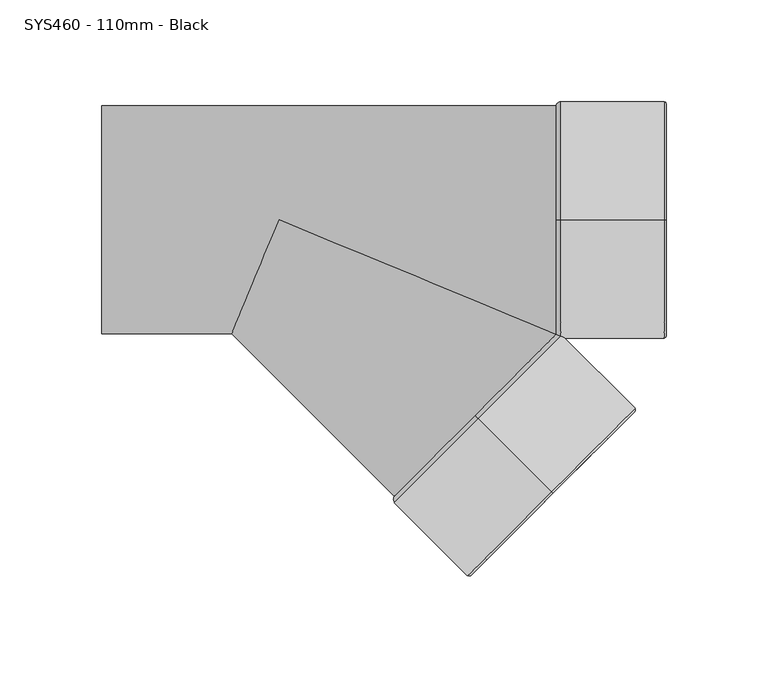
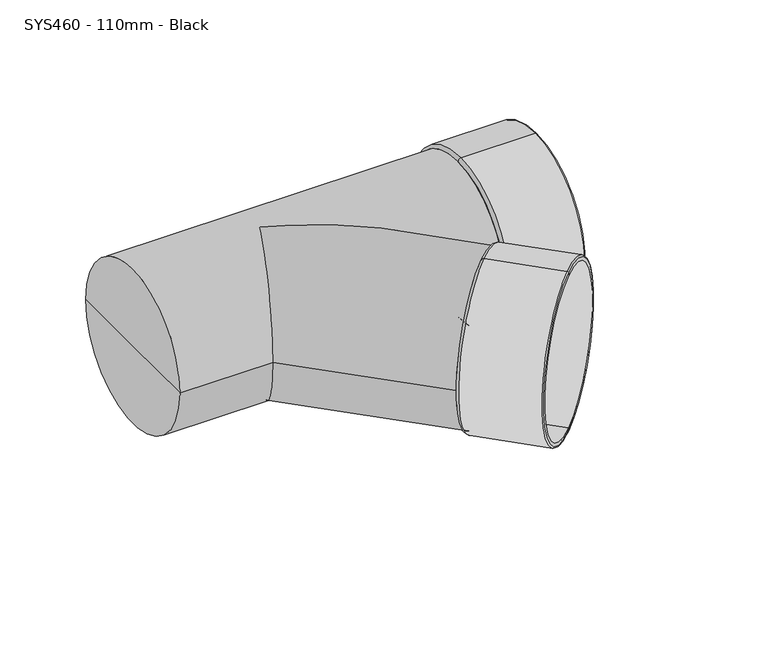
"""IFC4 building model written with IfcOpenShell, lengths in millimetres: pipe fitting geometry, MarleyPlumbingAndDrainage_PipeFitting_EqualBranch45 : SYS460 - 110mm - Black."""

from ifc_helpers import new_model, si_unit, point, frame, origin, place, context, project, spatial, polyline, circle_curve, ellipse_curve, trimmed, source, transform, mapped, element, save
from ifc_brep_helpers import plane_surface, cylinder_surface, revolved_surface, advanced_brep


def sys460_110mm_black_a823f374(model_context):
    return source(origin(), model_context, "Body", "AdvancedBrep", [
        advanced_brep(
        [(119.5249066, -134.3502884, -55.2), (119.5249066, -134.3502884, 55.2), (119.5249066, -134.3502884, 57.1626013), (119.5249066, -134.3502884, -57.1626013), (82.8967753, -97.7221572, -55.2), (82.8967753, -97.7221572, 55.2), (82.8967753, -97.7221572, 0.0), (81.3411404, -96.1665222, -56.0), (81.3411404, -96.1665222, 56.0), (81.3411404, -96.1665222, 0.0), (118.791355, -133.6167368, -58.2), (118.791355, -133.6167368, 58.2), (82.8967753, -97.7221572, 58.2), (82.8967753, -97.7221572, -58.2)],
        [
            (0, 1, circle_curve(frame((119.5249066, -134.3502884, 0.0), z_axis=(-0.7071067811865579, 0.7071067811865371, 0.0), x_axis=(0.0, 0.0, 1.0)), 55.2)),
            (1, 2),
            (2, 3, circle_curve(frame((119.5249066, -134.3502884, 0.0), z_axis=(0.7071067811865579, -0.7071067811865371, 0.0), x_axis=(0.0, 0.0, 1.0)), 57.1626013)),
            (3, 0),
            (1, 0, circle_curve(frame((119.5249066, -134.3502884, 0.0), z_axis=(-0.7071067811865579, 0.7071067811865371, 0.0), x_axis=(0.0, 0.0, 1.0)), 55.2)),
            (3, 2, circle_curve(frame((119.5249066, -134.3502884, 0.0), z_axis=(0.7071067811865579, -0.7071067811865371, 0.0), x_axis=(0.0, 0.0, 1.0)), 57.1626013)),
            (4, 5, circle_curve(frame((82.8967753, -97.7221572, 0.0), z_axis=(-0.7071067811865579, 0.7071067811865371, 0.0), x_axis=(0.0, 0.0, 1.0)), 55.2)),
            (5, 1),
            (0, 4),
            (5, 4, circle_curve(frame((82.8967753, -97.7221572, 0.0), z_axis=(-0.7071067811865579, 0.7071067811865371, 0.0), x_axis=(0.0, 0.0, 1.0)), 55.2)),
            (6, 5),
            (4, 6),
            (7, 8, circle_curve(frame((81.3411404, -96.1665222, 0.0), z_axis=(-0.7071067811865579, 0.7071067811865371, 0.0), x_axis=(0.0, 0.0, 1.0)), 56.0)),
            (8, 9),
            (9, 7),
            (8, 7, circle_curve(frame((81.3411404, -96.1665222, 0.0), z_axis=(-0.7071067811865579, 0.7071067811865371, 0.0), x_axis=(0.0, 0.0, 1.0)), 56.0)),
            (10, 11, circle_curve(frame((118.791355, -133.6167368, 0.0), z_axis=(-0.7071067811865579, 0.7071067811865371, 0.0), x_axis=(0.0, 0.0, 1.0)), 58.2)),
            (11, 12),
            (12, 13, circle_curve(frame((82.8967753, -97.7221572, 0.0), z_axis=(0.7071067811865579, -0.7071067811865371, 0.0), x_axis=(0.0, 0.0, 1.0)), 58.2)),
            (13, 10),
            (11, 10, circle_curve(frame((118.791355, -133.6167368, 0.0), z_axis=(-0.7071067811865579, 0.7071067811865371, 0.0), x_axis=(0.0, 0.0, 1.0)), 58.2)),
            (13, 12, circle_curve(frame((82.8967753, -97.7221572, 0.0), z_axis=(0.7071067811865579, -0.7071067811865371, 0.0), x_axis=(0.0, 0.0, 1.0)), 58.2)),
            (2, 11, circle_curve(frame((118.791355, -133.6167368, 57.1626013), z_axis=(-0.7071067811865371, -0.7071067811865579, 0.0), x_axis=(0.0, 0.0, 1.0)), 1.0373987)),
            (10, 3, circle_curve(frame((118.791355, -133.6167368, -57.1626013), z_axis=(-0.7071067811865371, -0.7071067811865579, 0.0), x_axis=(0.0, 0.0, -1.0)), 1.0373987)),
            (12, 8, circle_curve(frame((82.8967753, -97.7221572, 56.0), z_axis=(-0.7071067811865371, -0.7071067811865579, 0.0), x_axis=(0.0, 0.0, 1.0)), 2.2)),
            (7, 13, circle_curve(frame((82.8967753, -97.7221572, -56.0), z_axis=(-0.7071067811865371, -0.7071067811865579, 0.0), x_axis=(0.0, 0.0, -1.0)), 2.2)),
        ],
        [
            plane_surface(frame((119.5249066, -134.3502884, 0.0), z_axis=(0.7071067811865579, -0.7071067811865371, 0.0), x_axis=(0.0, 0.0, 1.0))),
            revolved_surface(polyline([(119.52490659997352, -134.3502884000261, 55.2), (82.89677534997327, -97.72215715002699, 55.2)]), (1916.2925792, -1931.117961, 0.0), (0.7071067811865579, -0.7071067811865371, 0.0)),
            plane_surface(frame((82.8967753, -97.7221572, 0.0), z_axis=(0.7071067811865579, -0.7071067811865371, 0.0), x_axis=(0.0, 0.0, 1.0))),
            plane_surface(frame((81.3411404, -96.1665222, 0.0), z_axis=(-0.7071067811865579, 0.7071067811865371, 0.0), x_axis=(0.0, 0.0, 1.0))),
            cylinder_surface(frame((1916.2925792, -1931.117961, 0.0), z_axis=(0.7071067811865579, -0.7071067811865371, 0.0), x_axis=(0.0, 0.0, 1.0)), 58.2),
            revolved_surface(trimmed(ellipse_curve(frame((118.791355, -133.6167368, 57.1626013), z_axis=(0.7071067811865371, 0.7071067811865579, 0.0), x_axis=(0.0, 0.0, 1.0)), 1.0373987, 1.0373987), [point((118.791355, -133.6167368, 58.2))], [point((119.5249066, -134.3502884, 57.1626013))], True, "CARTESIAN"), (1916.2925792, -1931.117961, 0.0), (0.7071067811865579, -0.7071067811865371, 0.0)),
            revolved_surface(trimmed(ellipse_curve(frame((82.8967753, -97.7221572, 56.0), z_axis=(0.7071067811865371, 0.7071067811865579, 0.0), x_axis=(0.0, 0.0, 1.0)), 2.2, 2.2), [point((81.3411404, -96.1665222, 56.0))], [point((82.8967753, -97.7221572, 58.2))], True, "CARTESIAN"), (1916.2925792, -1931.117961, 0.0), (0.7071067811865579, -0.7071067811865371, 0.0)),
        ],
        [
            (0, [[1, 2, 3, 4]]),
            (0, [[5, -4, 6, -2]]),
            (1, [[7, 8, -1, 9]]),
            (1, [[10, -9, -5, -8]]),
            (2, [[11, -7, 12]]),
            (2, [[-12, -10, -11]]),
            (3, [[13, 14, 15]]),
            (3, [[16, -15, -14]]),
            (4, [[17, 18, 19, 20]]),
            (4, [[21, -20, 22, -18]]),
            (5, [[-3, 23, -17, 24]]),
            (5, [[-6, -24, -21, -23]]),
            (6, [[-19, 25, -13, 26]]),
            (6, [[-22, -26, -16, -25]]),
        ],
    ),
        advanced_brep(
        [(175.1746182, 0.0, 55.2), (175.1746182, 0.0, -55.2), (175.1746182, 0.0, -57.1626013), (175.1746182, 0.0, 57.1626013), (123.3746182, 0.0, 55.2), (123.3746182, 0.0, -55.2), (123.3746182, 0.0, 0.0), (121.1746182, 0.0, 56.0), (121.1746182, 0.0, -56.0), (121.1746182, 0.0, 0.0), (174.1372195, 0.0, 58.2), (174.1372195, 0.0, -58.2), (123.3746182, 0.0, -58.2), (123.3746182, 0.0, 58.2)],
        [
            (0, 1, circle_curve(frame((175.1746182, 0.0, 0.0), z_axis=(-1.0, 0.0, 0.0), x_axis=(0.0, 0.0, -1.0)), 55.2)),
            (1, 2),
            (2, 3, circle_curve(frame((175.1746182, 0.0, 0.0), z_axis=(1.0, 0.0, 0.0), x_axis=(0.0, 0.0, -1.0)), 57.1626013)),
            (3, 0),
            (1, 0, circle_curve(frame((175.1746182, 0.0, 0.0), z_axis=(-1.0, 0.0, 0.0), x_axis=(0.0, 0.0, -1.0)), 55.2)),
            (3, 2, circle_curve(frame((175.1746182, 0.0, 0.0), z_axis=(1.0, 0.0, 0.0), x_axis=(0.0, 0.0, -1.0)), 57.1626013)),
            (4, 5, circle_curve(frame((123.3746182, 0.0, 0.0), z_axis=(-1.0, 0.0, 0.0), x_axis=(0.0, 0.0, -1.0)), 55.2)),
            (5, 1),
            (0, 4),
            (5, 4, circle_curve(frame((123.3746182, 0.0, 0.0), z_axis=(-1.0, 0.0, 0.0), x_axis=(0.0, 0.0, -1.0)), 55.2)),
            (6, 5),
            (4, 6),
            (7, 8, circle_curve(frame((121.1746182, 0.0, 0.0), z_axis=(-1.0, 0.0, 0.0), x_axis=(0.0, 0.0, -1.0)), 56.0)),
            (8, 9),
            (9, 7),
            (8, 7, circle_curve(frame((121.1746182, 0.0, 0.0), z_axis=(-1.0, 0.0, 0.0), x_axis=(0.0, 0.0, -1.0)), 56.0)),
            (10, 11, circle_curve(frame((174.1372195, 0.0, 0.0), z_axis=(-1.0, 0.0, 0.0), x_axis=(0.0, 0.0, -1.0)), 58.2)),
            (11, 12),
            (12, 13, circle_curve(frame((123.3746182, 0.0, 0.0), z_axis=(1.0, 0.0, 0.0), x_axis=(0.0, 0.0, -1.0)), 58.2)),
            (13, 10),
            (11, 10, circle_curve(frame((174.1372195, 0.0, 0.0), z_axis=(-1.0, 0.0, 0.0), x_axis=(0.0, 0.0, -1.0)), 58.2)),
            (13, 12, circle_curve(frame((123.3746182, 0.0, 0.0), z_axis=(1.0, 0.0, 0.0), x_axis=(0.0, 0.0, -1.0)), 58.2)),
            (2, 11, circle_curve(frame((174.1372195, 0.0, -57.1626013), z_axis=(0.0, 1.0, 0.0), x_axis=(0.0, 0.0, -1.0)), 1.0373987)),
            (10, 3, circle_curve(frame((174.1372195, 0.0, 57.1626013), z_axis=(0.0, 1.0, 0.0), x_axis=(0.0, 0.0, 1.0)), 1.0373987)),
            (12, 8, circle_curve(frame((123.3746182, 0.0, -56.0), z_axis=(0.0, 1.0, 0.0), x_axis=(0.0, 0.0, -1.0)), 2.2)),
            (7, 13, circle_curve(frame((123.3746182, 0.0, 56.0), z_axis=(0.0, 1.0, 0.0), x_axis=(0.0, 0.0, 1.0)), 2.2)),
        ],
        [
            plane_surface(frame((175.1746182, 0.0, 0.0), z_axis=(1.0, 0.0, 0.0), x_axis=(0.0, 0.0, -1.0))),
            revolved_surface(polyline([(175.17461820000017, 0.0, -55.2), (123.37461819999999, 0.0, -55.2)]), (2716.1878292, 0.0, 0.0), (1.0, 0.0, 0.0)),
            plane_surface(frame((123.3746182, 0.0, 0.0), z_axis=(1.0, 0.0, 0.0), x_axis=(0.0, 0.0, -1.0))),
            plane_surface(frame((121.1746182, 0.0, 0.0), z_axis=(-1.0, 0.0, 0.0), x_axis=(0.0, 0.0, -1.0))),
            cylinder_surface(frame((2716.1878292, 0.0, 0.0), z_axis=(1.0, 0.0, 0.0), x_axis=(0.0, 0.0, -1.0)), 58.2),
            revolved_surface(trimmed(ellipse_curve(frame((174.1372195, 0.0, -57.1626013), z_axis=(0.0, -1.0, 0.0), x_axis=(0.0, 0.0, -1.0)), 1.0373987, 1.0373987), [point((174.1372195, 0.0, -58.2))], [point((175.1746182, 0.0, -57.1626013))], True, "CARTESIAN"), (2716.1878292, 0.0, 0.0), (1.0, 0.0, 0.0)),
            revolved_surface(trimmed(ellipse_curve(frame((123.3746182, 0.0, -56.0), z_axis=(0.0, -1.0, 0.0), x_axis=(0.0, 0.0, -1.0)), 2.2, 2.2), [point((121.1746182, 0.0, -56.0))], [point((123.3746182, 0.0, -58.2))], True, "CARTESIAN"), (2716.1878292, 0.0, 0.0), (1.0, 0.0, 0.0)),
        ],
        [
            (0, [[1, 2, 3, 4]]),
            (0, [[5, -4, 6, -2]]),
            (1, [[7, 8, -1, 9]]),
            (1, [[10, -9, -5, -8]]),
            (2, [[11, -7, 12]]),
            (2, [[-12, -10, -11]]),
            (3, [[13, 14, 15]]),
            (3, [[16, -15, -14]]),
            (4, [[17, 18, 19, 20]]),
            (4, [[21, -20, 22, -18]]),
            (5, [[-3, 23, -17, 24]]),
            (5, [[-6, -24, -21, -23]]),
            (6, [[-19, 25, -13, 26]]),
            (6, [[-22, -26, -16, -25]]),
        ],
    ),
        advanced_brep(
        [(41.7431607, -135.764502, 0.0), (120.9391202, -56.5685425, 0.0), (120.3705777, -56.0, 0.0), (-14.8253818, 0.0, 56.0), (-38.0213413, -56.0, 0.0), (-14.8253818, 0.0, -56.0), (121.1746182, -56.0, 0.0), (121.1746182, 56.0, 0.0), (121.1746182, 0.0, 0.0), (-101.8253818, -56.0, 0.0), (-101.8253818, 56.0, 0.0), (-101.8253818, 0.0, 0.0)],
        [
            (0, 1, circle_curve(frame((81.3411404, -96.1665222, 0.0), z_axis=(0.7071067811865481, -0.7071067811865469, 0.0), x_axis=(0.7071067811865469, 0.7071067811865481, 0.0)), 56.0)),
            (1, 0, circle_curve(frame((81.3411404, -96.1665222, 0.0), z_axis=(0.7071067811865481, -0.7071067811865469, 0.0), x_axis=(0.7071067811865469, 0.7071067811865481, 0.0)), 56.0)),
            (1, 2),
            (2, 3, ellipse_curve(frame((-14.8253818, 0.0, 0.0), z_axis=(-0.3826834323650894, -0.923879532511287, 0.0), x_axis=(-0.923879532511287, 0.38268343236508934, 0.0)), 146.3350521, 56.0)),
            (3, 4, ellipse_curve(frame((-14.8253818, 0.0, 0.0), z_axis=(0.923879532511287, -0.3826834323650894, 0.0), x_axis=(0.38268343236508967, 0.9238795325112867, 0.0)), 60.6139632, 56.0)),
            (4, 0),
            (4, 5, ellipse_curve(frame((-14.8253818, 0.0, 0.0), z_axis=(0.923879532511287, -0.3826834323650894, 0.0), x_axis=(0.38268343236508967, 0.9238795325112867, 0.0)), 60.6139632, 56.0)),
            (5, 2, ellipse_curve(frame((-14.8253818, 0.0, 0.0), z_axis=(-0.3826834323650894, -0.923879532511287, 0.0), x_axis=(-0.923879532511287, 0.38268343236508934, 0.0)), 146.3350521, 56.0)),
            (6, 7, circle_curve(frame((121.1746182, 0.0, 0.0), z_axis=(1.0, 0.0, 0.0), x_axis=(0.0, 1.0, 0.0)), 56.0)),
            (7, 8),
            (8, 6),
            (7, 6, circle_curve(frame((121.1746182, 0.0, 0.0), z_axis=(1.0, 0.0, 0.0), x_axis=(0.0, 1.0, 0.0)), 56.0)),
            (6, 2),
            (4, 9),
            (9, 10, circle_curve(frame((-101.8253818, 0.0, 0.0), z_axis=(1.0, 0.0, 0.0), x_axis=(0.0, 1.0, 0.0)), 56.0)),
            (10, 7),
            (10, 9, circle_curve(frame((-101.8253818, 0.0, 0.0), z_axis=(1.0, 0.0, 0.0), x_axis=(0.0, 1.0, 0.0)), 56.0)),
            (9, 11),
            (11, 10),
        ],
        [
            plane_surface(frame((81.3411404, -96.1665222, 0.0), z_axis=(0.7071067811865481, -0.7071067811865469, 0.0), x_axis=(0.0, 0.0, 1.0))),
            cylinder_surface(frame((-14.8253818, 0.0, 0.0), z_axis=(-0.7071067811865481, 0.7071067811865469, 0.0), x_axis=(0.7071067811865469, 0.7071067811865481, 0.0)), 56.0),
            plane_surface(frame((121.1746182, 0.0, 0.0), z_axis=(1.0, 0.0, 0.0), x_axis=(0.0, 1.0, 0.0))),
            cylinder_surface(frame((2000.0, 0.0, 0.0), z_axis=(-1.0, 0.0, 0.0), x_axis=(0.0, 1.0, 0.0)), 56.0),
            plane_surface(frame((-101.8253818, 0.0, 0.0), z_axis=(-1.0, 0.0, 0.0), x_axis=(0.0, 1.0, 0.0))),
        ],
        [
            (0, [[1, 2]]),
            (1, [[-2, 3, 4, 5, 6]]),
            (1, [[-1, -6, 7, 8, -3]]),
            (2, [[9, 10, 11]]),
            (2, [[-10, 12, -11]]),
            (3, [[-9, 13, -8, -7, 14, 15, 16]]),
            (3, [[-12, -16, 17, -14, -5, -4, -13]]),
            (4, [[-15, 18, 19]]),
            (4, [[-17, -19, -18]]),
        ],
    ),
    ])


if __name__ == "__main__":
    model = new_model("IFC4")
    model_context = context("Model", 3, world=origin())
    ifc_project = project(units=[si_unit("LENGTHUNIT", "METRE", prefix="MILLI")], contexts=[model_context])
    site = spatial("IfcSite", under=ifc_project)
    building = spatial("IfcBuilding", under=site)
    placement = place(None, origin())
    sys460_110mm_black_shape = sys460_110mm_black_a823f374(model_context)
    element("IfcPipeFitting", 1, ObjectType="MarleyPlumbingAndDrainage_PipeFitting_EqualBranch45 : SYS460 - 110mm - Black", at=placement, inside=building, context=model_context, shape_type="MappedRepresentation", body=[
        mapped(sys460_110mm_black_shape, transform((0.0, 0.0, 0.0), x_axis=(1.0, 0.0, 0.0), y_axis=(0.0, 1.0, 0.0), z_axis=(0.0, 0.0, 1.0))),
    ])
    save(model, "model.ifc")
